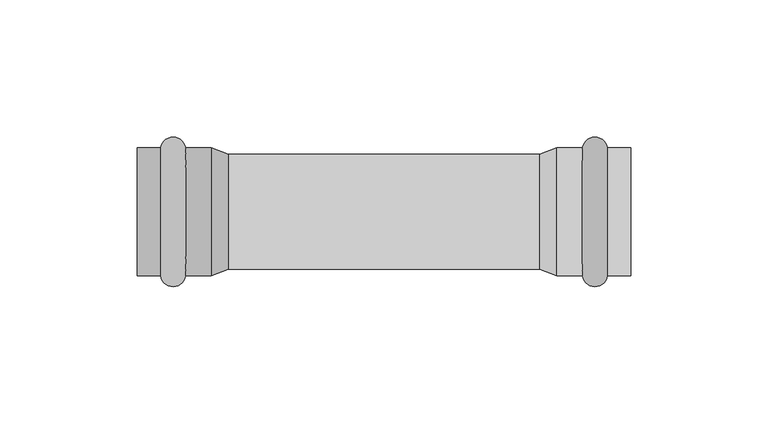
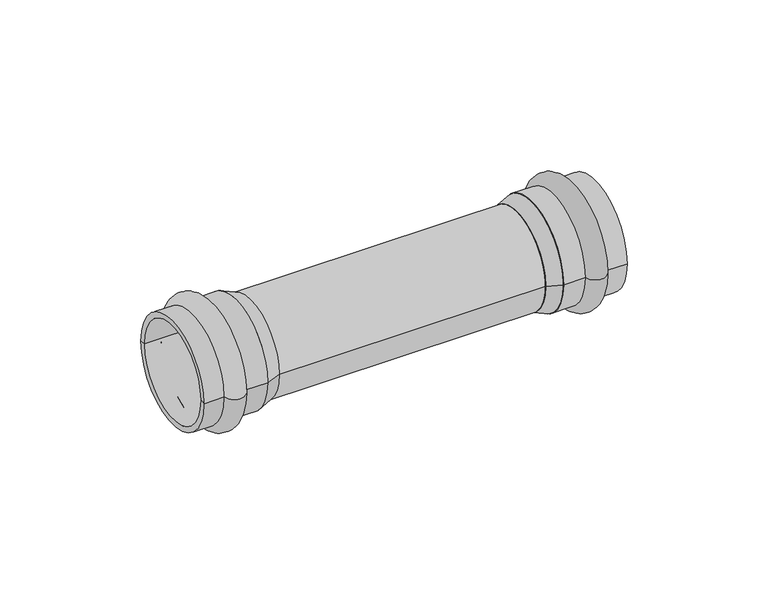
"""IFC4 building model written with IfcOpenShell, lengths in millimetres: pipe fitting geometry, VALTEC_VTi.903.I_Соединитель прямой нержавеющая сталь : VTi.903.I."""

from ifc_helpers import new_model, si_unit, point, frame, origin, origin_2d, place, context, project, spatial, polyline, circle_curve, ellipse_curve, trimmed, segment, composite_curve, outline, extrude, source, transform, mapped, element, save
from ifc_brep_helpers import plane_surface, cylinder_surface, revolved_surface, advanced_brep


def pipe_fitting_34a54a58(model_context):
    return source(origin(), model_context, "Body", "SolidModel", [
        advanced_brep(
        [(171.4464272, 23.35, 0.0), (171.4464272, -23.35, 0.0), (162.3535728, -23.35, 0.0), (162.3535728, 23.35, 0.0), (180.0, 23.35, 0.0), (180.0, -23.35, 0.0), (180.0, 21.0, 0.0), (180.0, -21.0, 0.0), (153.0, 21.0, 0.0), (153.0, -21.0, 0.0), (153.0, 23.35, 0.0), (153.0, -23.35, 0.0)],
        [
            (0, 1, circle_curve(frame((171.4464272, 0.0, 0.0), z_axis=(-1.0, 0.0, 0.0), x_axis=(0.0, -1.0, 0.0)), 23.35)),
            (1, 2, circle_curve(frame((166.9, -22.65, 0.0), z_axis=(0.0, 0.0, -1.0), x_axis=(-1.0, 0.0, 0.0)), 4.6)),
            (2, 3, circle_curve(frame((162.3535728, 0.0, 0.0), z_axis=(1.0, 0.0, 0.0), x_axis=(0.0, -1.0, 0.0)), 23.35)),
            (3, 0, circle_curve(frame((166.9, 22.65, 0.0), z_axis=(0.0, 0.0, -1.0), x_axis=(-1.0, 0.0, 0.0)), 4.6)),
            (1, 0, circle_curve(frame((171.4464272, 0.0, 0.0), z_axis=(-1.0, 0.0, 0.0), x_axis=(0.0, -1.0, 0.0)), 23.35)),
            (3, 2, circle_curve(frame((162.3535728, 0.0, 0.0), z_axis=(1.0, 0.0, 0.0), x_axis=(0.0, -1.0, 0.0)), 23.35)),
            (4, 5, circle_curve(frame((180.0, 0.0, 0.0), z_axis=(-1.0, 0.0, 0.0), x_axis=(0.0, -1.0, 0.0)), 23.35)),
            (5, 1),
            (0, 4),
            (5, 4, circle_curve(frame((180.0, 0.0, 0.0), z_axis=(-1.0, 0.0, 0.0), x_axis=(0.0, -1.0, 0.0)), 23.35)),
            (6, 7, circle_curve(frame((180.0, 0.0, 0.0), z_axis=(-1.0, 0.0, 0.0), x_axis=(0.0, -1.0, 0.0)), 21.0)),
            (7, 5),
            (4, 6),
            (7, 6, circle_curve(frame((180.0, 0.0, 0.0), z_axis=(-1.0, 0.0, 0.0), x_axis=(0.0, -1.0, 0.0)), 21.0)),
            (8, 9, circle_curve(frame((153.0, 0.0, 0.0), z_axis=(-1.0, 0.0, 0.0), x_axis=(0.0, -1.0, 0.0)), 21.0)),
            (9, 7),
            (6, 8),
            (9, 8, circle_curve(frame((153.0, 0.0, 0.0), z_axis=(-1.0, 0.0, 0.0), x_axis=(0.0, -1.0, 0.0)), 21.0)),
            (10, 11, circle_curve(frame((153.0, 0.0, 0.0), z_axis=(-1.0, 0.0, 0.0), x_axis=(0.0, -1.0, 0.0)), 23.35)),
            (11, 9),
            (8, 10),
            (11, 10, circle_curve(frame((153.0, 0.0, 0.0), z_axis=(-1.0, 0.0, 0.0), x_axis=(0.0, -1.0, 0.0)), 23.35)),
            (2, 11),
            (10, 3),
        ],
        [
            revolved_surface(trimmed(ellipse_curve(frame((166.9, -22.65, 0.0), z_axis=(0.0, 0.0, 1.0), x_axis=(-1.0, 0.0, 0.0)), 4.6, 4.6), [point((162.3535728, -23.35, 0.0))], [point((171.4464272, -23.35, 0.0))], True, "CARTESIAN"), (183.5364426, 0.0, 0.0), (1.0, 0.0, 0.0)),
            cylinder_surface(frame((183.5364426, 0.0, 0.0), z_axis=(1.0, 0.0, 0.0), x_axis=(0.0, -1.0, 0.0)), 23.35),
            plane_surface(frame((180.0, 0.0, 0.0), z_axis=(1.0, 0.0, 0.0), x_axis=(0.0, -1.0, 0.0))),
            revolved_surface(polyline([(180.0, -21.0, 0.0), (153.0, -21.0, 0.0)]), (183.5364426, 0.0, 0.0), (1.0, 0.0, 0.0)),
            plane_surface(frame((153.0, 0.0, 0.0), z_axis=(-1.0, 0.0, 0.0), x_axis=(0.0, -1.0, 0.0))),
        ],
        [
            (0, [[1, 2, 3, 4]]),
            (0, [[5, -4, 6, -2]]),
            (1, [[7, 8, -1, 9]]),
            (1, [[10, -9, -5, -8]]),
            (2, [[11, 12, -7, 13]]),
            (2, [[14, -13, -10, -12]]),
            (3, [[15, 16, -11, 17]]),
            (3, [[18, -17, -14, -16]]),
            (4, [[19, 20, -15, 21]]),
            (4, [[22, -21, -18, -20]]),
            (1, [[-3, 23, -19, 24]]),
            (1, [[-6, -24, -22, -23]]),
        ],
    ),
        advanced_brep(
        [(8.5535728, -23.35, 0.0), (8.5535728, 23.35, 0.0), (17.6464272, 23.35, 0.0), (17.6464272, -23.35, 0.0), (0.0, -23.35, 0.0), (0.0, 23.35, 0.0), (0.0, -21.0, 0.0), (0.0, 21.0, 0.0), (27.0, -21.0, 0.0), (27.0, 21.0, 0.0), (27.0, -23.35, 0.0), (27.0, 23.35, 0.0)],
        [
            (0, 1, circle_curve(frame((8.5535728, 0.0, 0.0), z_axis=(1.0, 0.0, 0.0), x_axis=(0.0, 1.0, 0.0)), 23.35)),
            (1, 2, circle_curve(frame((13.1, 22.65, 0.0), z_axis=(0.0, 0.0, -1.0), x_axis=(1.0, 0.0, 0.0)), 4.6)),
            (2, 3, circle_curve(frame((17.6464272, 0.0, 0.0), z_axis=(-1.0, 0.0, 0.0), x_axis=(0.0, 1.0, 0.0)), 23.35)),
            (3, 0, circle_curve(frame((13.1, -22.65, 0.0), z_axis=(0.0, 0.0, -1.0), x_axis=(1.0, 0.0, 0.0)), 4.6)),
            (1, 0, circle_curve(frame((8.5535728, 0.0, 0.0), z_axis=(1.0, 0.0, 0.0), x_axis=(0.0, 1.0, 0.0)), 23.35)),
            (3, 2, circle_curve(frame((17.6464272, 0.0, 0.0), z_axis=(-1.0, 0.0, 0.0), x_axis=(0.0, 1.0, 0.0)), 23.35)),
            (4, 5, circle_curve(frame((0.0, 0.0, 0.0), z_axis=(1.0, 0.0, 0.0), x_axis=(0.0, 1.0, 0.0)), 23.35)),
            (5, 1),
            (0, 4),
            (5, 4, circle_curve(frame((0.0, 0.0, 0.0), z_axis=(1.0, 0.0, 0.0), x_axis=(0.0, 1.0, 0.0)), 23.35)),
            (6, 7, circle_curve(frame((0.0, 0.0, 0.0), z_axis=(1.0, 0.0, 0.0), x_axis=(0.0, 1.0, 0.0)), 21.0)),
            (7, 5),
            (4, 6),
            (7, 6, circle_curve(frame((0.0, 0.0, 0.0), z_axis=(1.0, 0.0, 0.0), x_axis=(0.0, 1.0, 0.0)), 21.0)),
            (8, 9, circle_curve(frame((27.0, 0.0, 0.0), z_axis=(1.0, 0.0, 0.0), x_axis=(0.0, 1.0, 0.0)), 21.0)),
            (9, 7),
            (6, 8),
            (9, 8, circle_curve(frame((27.0, 0.0, 0.0), z_axis=(1.0, 0.0, 0.0), x_axis=(0.0, 1.0, 0.0)), 21.0)),
            (10, 11, circle_curve(frame((27.0, 0.0, 0.0), z_axis=(1.0, 0.0, 0.0), x_axis=(0.0, 1.0, 0.0)), 23.35)),
            (11, 9),
            (8, 10),
            (11, 10, circle_curve(frame((27.0, 0.0, 0.0), z_axis=(1.0, 0.0, 0.0), x_axis=(0.0, 1.0, 0.0)), 23.35)),
            (2, 11),
            (10, 3),
        ],
        [
            revolved_surface(trimmed(ellipse_curve(frame((13.1, 22.65, 0.0), z_axis=(0.0, 0.0, 1.0), x_axis=(1.0, 0.0, 0.0)), 4.6, 4.6), [point((17.6464272, 23.35, 0.0))], [point((8.5535728, 23.35, 0.0))], True, "CARTESIAN"), (-3.5364426, 0.0, 0.0), (-1.0, 0.0, 0.0)),
            cylinder_surface(frame((-3.5364426, 0.0, 0.0), z_axis=(-1.0, 0.0, 0.0), x_axis=(0.0, 1.0, 0.0)), 23.35),
            plane_surface(frame((0.0, 0.0, 0.0), z_axis=(-1.0, 0.0, 0.0), x_axis=(0.0, 1.0, 0.0))),
            revolved_surface(polyline([(0.0, 21.0, 0.0), (27.0, 21.0, 0.0)]), (-3.5364426, 0.0, 0.0), (-1.0, 0.0, 0.0)),
            plane_surface(frame((27.0, 0.0, 0.0), z_axis=(1.0, 0.0, 0.0), x_axis=(0.0, 1.0, 0.0))),
        ],
        [
            (0, [[1, 2, 3, 4]]),
            (0, [[5, -4, 6, -2]]),
            (1, [[7, 8, -1, 9]]),
            (1, [[10, -9, -5, -8]]),
            (2, [[11, 12, -7, 13]]),
            (2, [[14, -13, -10, -12]]),
            (3, [[15, 16, -11, 17]]),
            (3, [[18, -17, -14, -16]]),
            (4, [[19, 20, -15, 21]]),
            (4, [[22, -21, -18, -20]]),
            (1, [[-3, 23, -19, 24]]),
            (1, [[-6, -24, -22, -23]]),
        ],
    ),
        advanced_brep(
        [(27.0, -23.35, 0.0), (27.0, 23.35, 0.0), (33.3, -21.0, 0.0), (33.3, 21.0, 0.0)],
        [
            (0, 1, circle_curve(frame((27.0, 0.0, 0.0), z_axis=(-1.0, 0.0, 0.0), x_axis=(0.0, -1.0, 0.0)), 23.35)),
            (1, 0, circle_curve(frame((27.0, 0.0, 0.0), z_axis=(-1.0, 0.0, 0.0), x_axis=(0.0, 1.0, 0.0)), 23.35)),
            (2, 3, circle_curve(frame((33.3, 0.0, 0.0), z_axis=(1.0, 0.0, 0.0), x_axis=(0.0, 1.0, 0.0)), 21.0)),
            (3, 2, circle_curve(frame((33.3, 0.0, 0.0), z_axis=(1.0, 0.0, 0.0), x_axis=(0.0, -1.0, 0.0)), 21.0)),
            (2, 0),
            (1, 3),
        ],
        [
            plane_surface(frame((27.0, 0.0, 0.0), z_axis=(-1.0, 0.0, 0.0), x_axis=(0.0, 0.0, 1.0))),
            plane_surface(frame((33.3, 0.0, 0.0), z_axis=(1.0, 0.0, 0.0), x_axis=(0.0, 0.0, 1.0))),
            revolved_surface(polyline([(33.3, -20.99999999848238, 0.0), (27.0, -23.35, 0.0)]), (89.5978723, 0.0, 0.0), (-1.0, 0.0, 0.0)),
            revolved_surface(polyline([(33.3, 20.99999999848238, 0.0), (27.0, 23.35, 0.0)]), (89.5978723, 0.0, 0.0), (-1.0, 0.0, 0.0)),
        ],
        [
            (0, [[1, 2]]),
            (1, [[3, 4]]),
            (2, [[-3, 5, -2, 6]]),
            (3, [[-4, -6, -1, -5]]),
        ],
    ),
        advanced_brep(
        [(153.0, -23.35, 0.0), (153.0, 23.35, 0.0), (146.7, -21.0, 0.0), (146.7, 21.0, 0.0)],
        [
            (0, 1, circle_curve(frame((153.0, 0.0, 0.0), z_axis=(1.0, 0.0, 0.0), x_axis=(0.0, -1.0, 0.0)), 23.35)),
            (1, 0, circle_curve(frame((153.0, 0.0, 0.0), z_axis=(1.0, 0.0, 0.0), x_axis=(0.0, 1.0, 0.0)), 23.35)),
            (2, 3, circle_curve(frame((146.7, 0.0, 0.0), z_axis=(-1.0, 0.0, 0.0), x_axis=(0.0, 1.0, 0.0)), 21.0)),
            (3, 2, circle_curve(frame((146.7, 0.0, 0.0), z_axis=(-1.0, 0.0, 0.0), x_axis=(0.0, -1.0, 0.0)), 21.0)),
            (3, 1),
            (0, 2),
        ],
        [
            plane_surface(frame((153.0, 0.0, 0.0), z_axis=(1.0, 0.0, 0.0), x_axis=(0.0, 0.0, -1.0))),
            plane_surface(frame((146.7, 0.0, 0.0), z_axis=(-1.0, 0.0, 0.0), x_axis=(0.0, 0.0, -1.0))),
            revolved_surface(polyline([(146.7, 20.999999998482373, 0.0), (153.0, 23.35, 0.0)]), (90.4021277, 0.0, 0.0), (1.0, 0.0, 0.0)),
            revolved_surface(polyline([(146.7, -20.999999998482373, 0.0), (153.0, -23.35, 0.0)]), (90.4021277, 0.0, 0.0), (1.0, 0.0, 0.0)),
        ],
        [
            (0, [[1, 2]]),
            (1, [[3, 4]]),
            (2, [[-4, 5, -1, 6]]),
            (3, [[-3, -6, -2, -5]]),
        ],
    ),
        extrude(outline(composite_curve([segment(trimmed(circle_curve(origin_2d(), 21.0), [point((-21.0, 0.0))], [point((21.0, 0.0))], False, "CARTESIAN"), True, "CONTINUOUS"), segment(trimmed(circle_curve(origin_2d(), 21.0), [point((21.0, 0.0))], [point((-21.0, 0.0))], False, "CARTESIAN"), True, "CONTINUOUS")], self_intersect=False)), frame((27.0, 0.0, 0.0), z_axis=(1.0, 0.0, 0.0), x_axis=(0.0, 1.0, 0.0)), (0.0, 0.0, 1.0), 126.0),
    ])


if __name__ == "__main__":
    model = new_model("IFC4")
    model_context = context("Model", 3, world=origin())
    ifc_project = project(units=[si_unit("LENGTHUNIT", "METRE", prefix="MILLI")], contexts=[model_context])
    site = spatial("IfcSite", under=ifc_project)
    building = spatial("IfcBuilding", under=site)
    placement = place(None, origin())
    pipe_fitting_shape = pipe_fitting_34a54a58(model_context)
    element("IfcPipeFitting", 1, ObjectType="VALTEC_VTi.903.I_Соединитель прямой нержавеющая сталь : VTi.903.I", at=placement, inside=building, context=model_context, shape_type="MappedRepresentation", body=[
        mapped(pipe_fitting_shape, transform((0.0, 0.0, 0.0), x_axis=(1.0, 0.0, 0.0), y_axis=(0.0, 1.0, 0.0), z_axis=(0.0, 0.0, 1.0))),
    ])
    save(model, "model.ifc")
